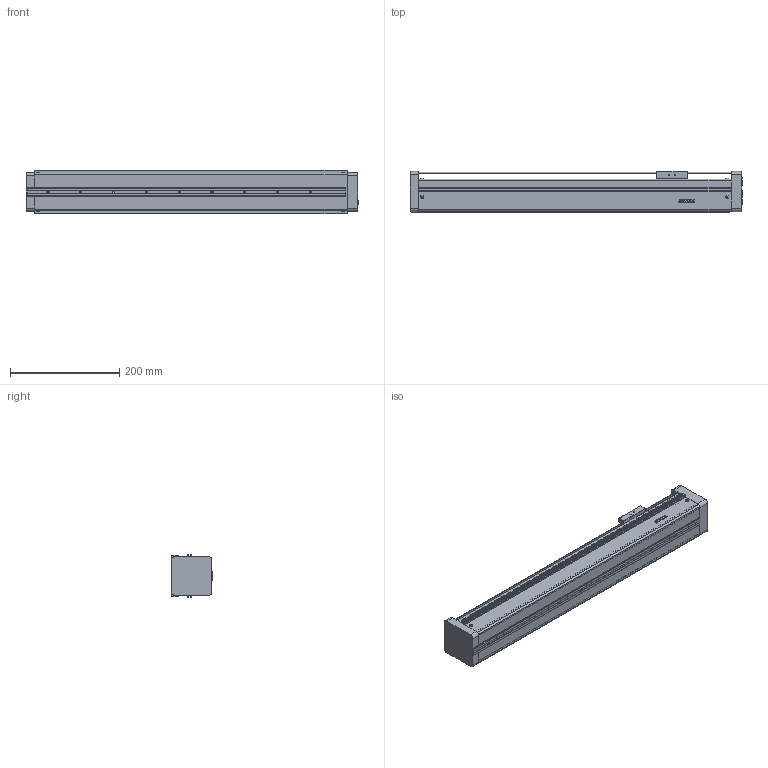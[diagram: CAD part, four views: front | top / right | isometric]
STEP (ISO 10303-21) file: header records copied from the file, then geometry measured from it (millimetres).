
FILE_DESCRIPTION(/* description */ (''),/* implementation_level */ '2;1');
FILE_NAME(/* name */ 'D:\混合母檔20191031\混和母檔\混和母檔\bin\Debug\Download\3D\KE705C-400AF0\KE705C-400AF0.stp',/* time_stamp */ '2019-11-04T14:03:32+08:00',/* author */ ('user'),/* organization */ (''),/* preprocessor_version */ 'ST-DEVELOPER v16.13',/* originating_system */ 'Autodesk Inventor 2018',/* authorisation */ '');
FILE_SCHEMA (('AUTOMOTIVE_DESIGN { 1 0 10303 214 3 1 1 }'));
Length unit declared in the file: millimetre
Products named in the file (3): KE705C-400AF0; KE70-F0-BP; KE70-SL
Assembly tree (2 placements, depth 2):
  KE705C-400AF0
    KE70-F0-BP
    KE70-SL
Bounding box: 607 x 75 x 79.4 mm (x, y, z)
Volume: 2503197.5 mm3; surface area: 369568.5 mm2
Topology: 2 solids, 29 shells, 832 faces, 2211 edges, 1446 vertices
Faces by surface type: plane 502, bspline 148, cylinder 107, cone 63, torus 12
Full cylindrical faces by diameter (mm): 2.459 x20, 3 x12, 3.242 x6, 3.5 x16, 4.134 x13, 5.7 x12, 6 x5, 30 x1
Entity records: 27695 total; most frequent: CARTESIAN_POINT 8766, ORIENTED_EDGE 3892, DIRECTION 3320, EDGE_CURVE 1946, VERTEX_POINT 1341, LINE 1272, VECTOR 1272, EDGE_LOOP 1041
